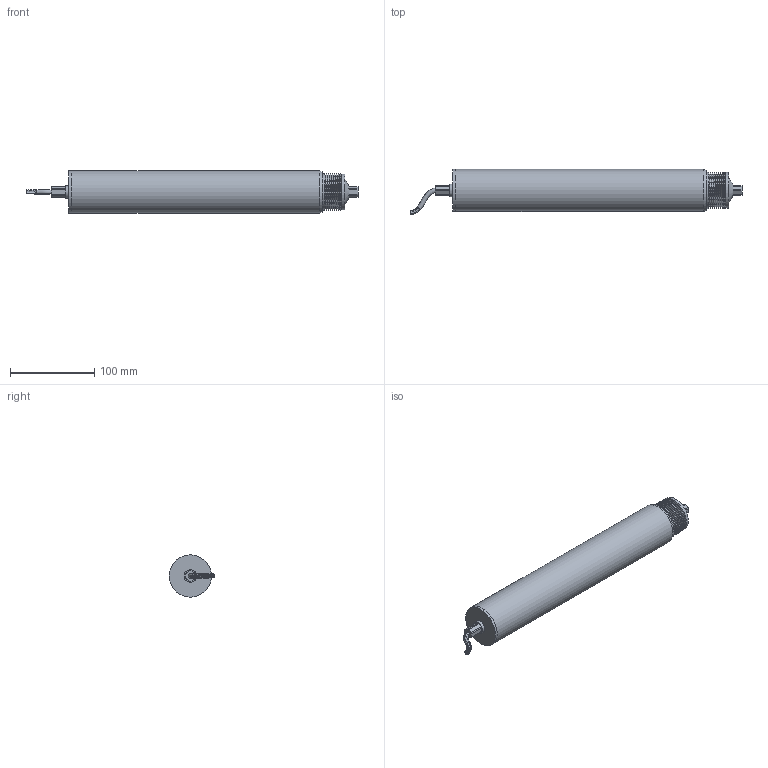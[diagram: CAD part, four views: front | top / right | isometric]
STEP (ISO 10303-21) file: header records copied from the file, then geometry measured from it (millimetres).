
FILE_DESCRIPTION(/* description */ (''),/* implementation_level */ '2;1');
FILE_NAME(/* name */ 'BLDG50-300(多楔带).stp',/* time_stamp */ '2021-11-10T09:03:28+08:00',/* author */ (''),/* organization */ (''),/* preprocessor_version */ 'ST-DEVELOPER v16.7',/* originating_system */ 'SIEMENS PLM Software NX 1899',/* authorisation */ '');
FILE_SCHEMA (('AP203_CONFIGURATION_CONTROLLED_3D_DESIGN_OF_MECHANICAL_PARTS_AND_ASSEMBLIES_MIM_LF { 1 0 10303 403 2 1 2}'));
Length unit declared in the file: millimetre
Products named in the file (1): BLDG50-300(多楔带)
Bounding box: 393.16 x 53.79 x 50 mm (x, y, z)
Volume: 637376.5 mm3; surface area: 71193.6 mm2
Topology: 15 solids, 15 shells, 107 faces, 190 edges, 115 vertices
Faces by surface type: plane 44, cone 20, cylinder 17, torus 17, bspline 9
Full cylindrical faces by diameter (mm): 15 x1, 42.605 x1, 43 x1, 50 x2
Entity records: 4699 total; most frequent: CARTESIAN_POINT 2666, DIRECTION 408, ORIENTED_EDGE 276, AXIS2_PLACEMENT_3D 180, EDGE_LOOP 160, EDGE_CURVE 138, VERTEX_POINT 114, ADVANCED_FACE 107
